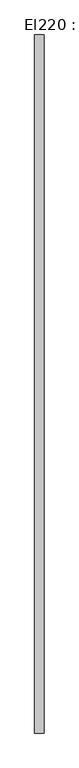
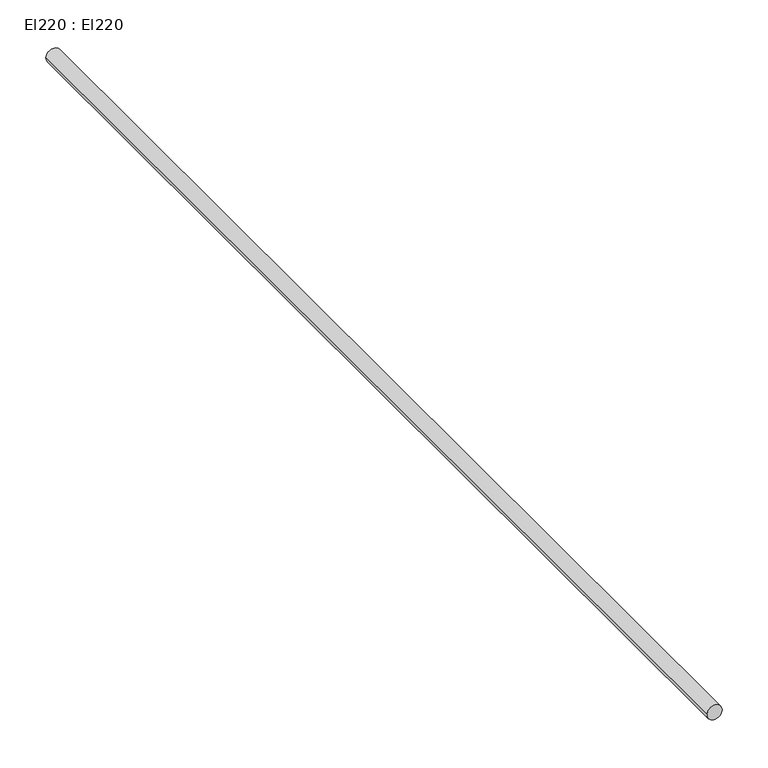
"""IFC4 building model written with IfcOpenShell, lengths in millimetres: cable carrier segment geometry, El220 : El220."""

from ifc_helpers import new_model, si_unit, point, frame, frame_2d, origin, place, context, project, spatial, circle_curve, trimmed, segment, composite_curve, outline, extrude, source, transform, mapped, element, save


def el220_el220_04fdd289(model_context):
    return source(origin(), model_context, "Body", "SweptSolid", [
        extrude(outline(composite_curve([segment(trimmed(circle_curve(frame_2d((300.0, 3950.0)), 9.5), [point((300.0, 3940.5))], [point((300.0, 3959.5))], False, "CARTESIAN"), True, "CONTINUOUS"), segment(trimmed(circle_curve(frame_2d((300.0, 3950.0)), 9.5), [point((300.0, 3959.5))], [point((300.0, 3940.5))], False, "CARTESIAN"), True, "CONTINUOUS")], self_intersect=False)), frame((0.0, 23801.63, 0.0), z_axis=(0.0, 1.0, 0.0), x_axis=(0.0, 0.0, 1.0)), (0.0, 0.0, 1.0), 1441.74),
    ])


if __name__ == "__main__":
    model = new_model("IFC4")
    model_context = context("Model", 3, world=origin())
    ifc_project = project(units=[si_unit("LENGTHUNIT", "METRE", prefix="MILLI")], contexts=[model_context])
    site = spatial("IfcSite", under=ifc_project)
    building = spatial("IfcBuilding", under=site)
    placement = place(None, origin())
    el220_el220_shape = el220_el220_04fdd289(model_context)
    element("IfcCableCarrierSegment", 1, ObjectType="El220 : El220", at=placement, inside=building, context=model_context, shape_type="MappedRepresentation", body=[
        mapped(el220_el220_shape, transform((0.0, 0.0, 0.0), x_axis=(1.0, 0.0, 0.0), y_axis=(0.0, 1.0, 0.0), z_axis=(0.0, 0.0, 1.0))),
    ])
    save(model, "model.ifc")
